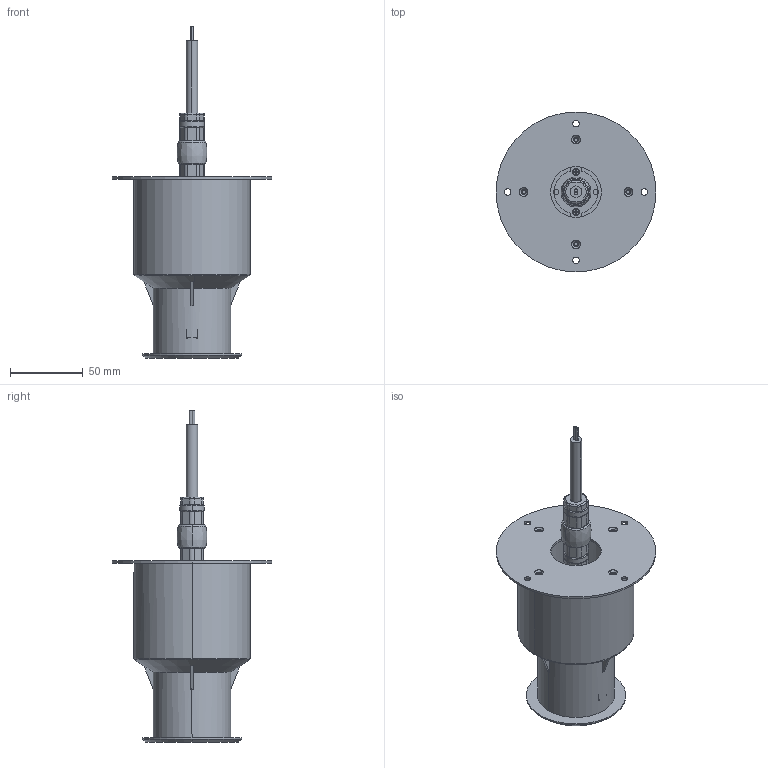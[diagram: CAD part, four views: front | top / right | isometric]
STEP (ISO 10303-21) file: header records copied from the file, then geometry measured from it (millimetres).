
FILE_DESCRIPTION((''),'2;1');
FILE_NAME('B4A0159F_ASM','2024-07-15T',('Administrator'),(''),'CREO PARAMETRIC BY PTC INC, 2015200','CREO PARAMETRIC BY PTC INC, 2015200','');
FILE_SCHEMA(('CONFIG_CONTROL_DESIGN'));
Length unit declared in the file: millimetre
Products named in the file (25): 4A-82_12_27; HOUGAI-0_25; 4A-10_12_24; LUOMU_26; 0-RING_25; BOLIDIAN_23; FANGSHUIQUAN_23; 2C-2V_28_22; BOLI-0_23; ASM0003_ASM_21_ASM; 2W-X1_19; MUZUHE_13; TANHUANG_11; 4A_____ASM_5_ASM; M3-6; PCB-002; MSBR-4; TOUJING; 4A_ASM; M2; 4A-NEW-SLEEVE-02; 4A-AG; 4A-G1_ASM; IP67; B4A0159F_ASM
Assembly tree (26 placements, depth 3):
  B4A0159F_ASM
    4A-82_12_27
    HOUGAI-0_25
    4A-10_12_24
    LUOMU_26
    0-RING_25
    BOLIDIAN_23
    FANGSHUIQUAN_23
    ASM0003_ASM_21_ASM
      2C-2V_28_22
      BOLI-0_23
    2W-X1_19
    MUZUHE_13
    TANHUANG_11
    4A_____ASM_5_ASM
    M3-6  x2
    PCB-002
    4A_ASM
      MSBR-4
      TOUJING
    M2  x2
    4A-G1_ASM
      4A-NEW-SLEEVE-02
      4A-AG
    IP67
Bounding box: 110 x 110 x 228.3 mm (x, y, z)
Volume: 197206.7 mm3; surface area: 146219.9 mm2
Topology: 22 solids, 22 shells, 1061 faces, 2659 edges, 1684 vertices
Faces by surface type: plane 363, cylinder 348, cone 153, bspline 151, torus 42, sphere 4
Entity records: 37847 total; most frequent: CARTESIAN_POINT 15240, ORIENTED_EDGE 4778, DIRECTION 4469, EDGE_CURVE 2389, AXIS2_PLACEMENT_3D 1774, VERTEX_POINT 1528, EDGE_LOOP 1057, FACE_OUTER_BOUND 940
